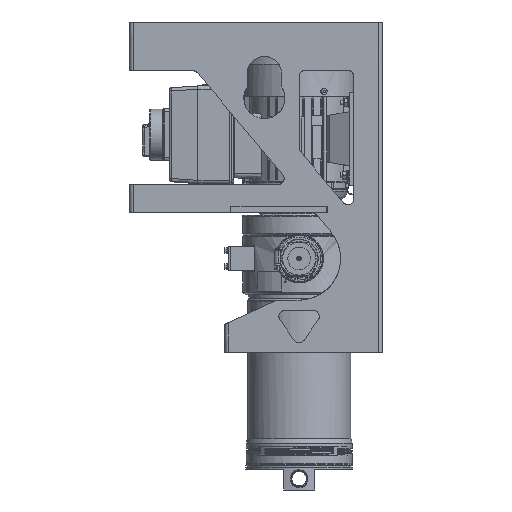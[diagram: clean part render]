
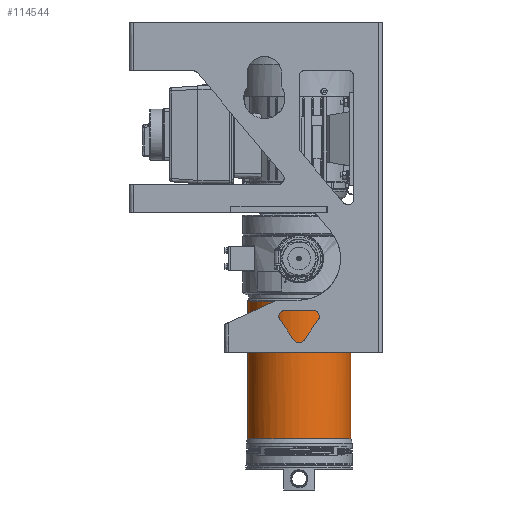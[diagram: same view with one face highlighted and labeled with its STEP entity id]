
A CAD part, front view. The second image highlights one B-rep face of the part: STEP entity #114544.
In plain terms, the highlighted free-form (B-spline) face has degree [2, 1] with [7, 2] control points.
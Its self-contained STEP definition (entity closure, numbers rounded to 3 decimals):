
#114417=CARTESIAN_POINT('V3668',(-3.73,
   -70.95,-62.386));
#114418=VERTEX_POINT('V3668',#114417);
#114434=CARTESIAN_POINT('E5684',(-3.73,
   -70.95,-62.386));
#114435=CARTESIAN_POINT('E5684',(-7.784,
   -70.95,-62.386));
#114436=CARTESIAN_POINT('E5684',(-15.899,
   -70.177,-62.386));
#114437=CARTESIAN_POINT('E5684',(-27.626,
   -66.737,-62.386));
#114438=CARTESIAN_POINT('E5684',(-38.495,
   -61.144,-62.386));
#114439=CARTESIAN_POINT('E5684',(-47.996,
   -53.687,-62.386));
#114440=CARTESIAN_POINT('E5684',(-55.85,
   -44.708,-62.386));
#114441=CARTESIAN_POINT('E5684',(-61.283,
   -35.545,-62.386));
#114442=CARTESIAN_POINT('E5684',(-64.791,
   -26.717,-62.386));
#114443=CARTESIAN_POINT('E5684',(-66.845,
   -18.603,-62.386));
#114444=CARTESIAN_POINT('E5684',(-67.824,
   -10.291,-62.386));
#114445=CARTESIAN_POINT('E5684',(-67.699,
   -0.766,-62.386));
#114446=CARTESIAN_POINT('E5684',(-65.88,
   9.787,-62.386));
#114447=CARTESIAN_POINT('E5684',(-61.752,
   20.912,-62.386));
#114448=CARTESIAN_POINT('E5684',(-55.651,
   31.09,-62.386));
#114449=CARTESIAN_POINT('E5684',(-47.697,
   40.074,-62.386));
#114450=CARTESIAN_POINT('E5684',(-38.099,
   47.5,-62.386));
#114451=CARTESIAN_POINT('E5684',(-27.148,
   53.03,-62.386));
#114452=CARTESIAN_POINT('E5684',(-15.347,
   56.383,-62.386));
#114453=CARTESIAN_POINT('E5684',(-3.006,
   57.447,-62.386));
#114454=CARTESIAN_POINT('E5684',(9.43,
   56.104,-62.386));
#114455=CARTESIAN_POINT('E5684',(21.478,
   52.325,-62.386));
#114456=CARTESIAN_POINT('E5684',(32.558,
   46.269,-62.386));
#114457=CARTESIAN_POINT('E5684',(42.472,
   37.976,-62.386));
#114458=CARTESIAN_POINT('E5684',(50.699,
   27.61,-62.386));
#114459=CARTESIAN_POINT('E5684',(56.491,
   15.935,-62.386));
#114460=CARTESIAN_POINT('E5684',(59.733,
   3.846,-62.386));
#114461=CARTESIAN_POINT('E5684',(60.633,
   -8.138,-62.386));
#114462=CARTESIAN_POINT('E5684',(59.291,
   -20.081,-62.386));
#114463=CARTESIAN_POINT('E5684',(56.002,
   -30.754,-62.386));
#114464=CARTESIAN_POINT('E5684',(51.373,
   -39.956,-62.386));
#114465=CARTESIAN_POINT('E5684',(45.932,
   -47.686,-62.386));
#114466=CARTESIAN_POINT('E5684',(39.415,
   -54.534,-62.386));
#114467=CARTESIAN_POINT('E5684',(31.964,
   -60.351,-62.386));
#114468=CARTESIAN_POINT('E5684',(23.74,
   -65.011,-62.386));
#114469=CARTESIAN_POINT('E5684',(14.921,
   -68.414,-62.386));
#114470=CARTESIAN_POINT('E5684',(5.698,
   -70.486,-62.386));
#114471=CARTESIAN_POINT('E5684',(-0.588,
   -70.95,-62.386));
#114472=CARTESIAN_POINT('E5684',(-3.73,
   -70.95,-62.386));
#114473=B_SPLINE_CURVE_WITH_KNOTS('E5684',3,(#114434,#114435,#114436,
   #114437,#114438,#114439,#114440,#114441,#114442,#114443,#114444,
   #114445,#114446,#114447,#114448,#114449,#114450,#114451,#114452,
   #114453,#114454,#114455,#114456,#114457,#114458,#114459,#114460,
   #114461,#114462,#114463,#114464,#114465,#114466,#114467,#114468,
   #114469,#114470,#114471,#114472),.UNSPECIFIED.,.T.,.U.,(4,1,1,1,
   1,1,1,1,1,1,1,1,1,1,1,1,1,1,1,1,1,1,1,1,1,1,1,1,1,1,1,1,1,1,1,1,4),
   (2.0,12.715,23.43,34.145,
   44.86,55.194,65.528,
   72.884,80.24,87.596,
   94.952,105.358,115.763,
   126.169,136.574,147.328,
   158.082,168.836,179.59,
   190.656,201.721,212.787,
   223.852,235.702,247.551,
   258.088,268.625,279.162,
   289.698,298.001,306.304,
   314.607,322.91,331.213,
   339.515,347.818,356.121),
   .UNSPECIFIED.);
#114474=EDGE_CURVE('E5684',#114418,#114418,#114473,.T.);
#114479=CARTESIAN_POINT('F2216',(-3.73,
   -70.95,-232.63));
#114480=CARTESIAN_POINT('F2216',(107.122,
   -70.95,-232.63));
#114481=CARTESIAN_POINT('F2216',(51.696,
   25.05,-232.63));
#114482=CARTESIAN_POINT('F2216',(-3.73,
   121.05,-232.63));
#114483=CARTESIAN_POINT('F2216',(-59.155,
   25.05,-232.63));
#114484=CARTESIAN_POINT('F2216',(-114.581,
   -70.95,-232.63));
#114485=CARTESIAN_POINT('F2216',(-3.73,
   -70.95,-232.63));
#114486=CARTESIAN_POINT('F2216',(-3.73,
   -70.95,-61.531));
#114487=CARTESIAN_POINT('F2216',(107.122,
   -70.95,-61.531));
#114488=CARTESIAN_POINT('F2216',(51.696,
   25.05,-61.531));
#114489=CARTESIAN_POINT('F2216',(-3.73,
   121.05,-61.531));
#114490=CARTESIAN_POINT('F2216',(-59.155,
   25.05,-61.531));
#114491=CARTESIAN_POINT('F2216',(-114.581,
   -70.95,-61.531));
#114492=CARTESIAN_POINT('F2216',(-3.73,
   -70.95,-61.531));
#114500=(BOUNDED_SURFACE()B_SPLINE_SURFACE(2,1,((#114479,#114486),
   (#114480,#114487),(#114481,#114488),(#114482,#114489),(
   #114483,#114490),(#114484,#114491),(#114485,#114492)),
   .CYLINDRICAL_SURF.,.T.,.F.,.U.)B_SPLINE_SURFACE_WITH_KNOTS((3,2,
   2,3),(2,2),(0.0,1.296,2.592,
   3.887),(0.0,1.0),.UNSPECIFIED.)
   GEOMETRIC_REPRESENTATION_ITEM()RATIONAL_B_SPLINE_SURFACE(((1.0,
   1.0),(0.5,0.5),(1.0,1.0),(
   0.5,0.5),(1.0,1.0),(
   0.5,0.5),(1.0,1.0)))
   REPRESENTATION_ITEM('F2216')SURFACE());
#114501=ORIENTED_EDGE('F2209',*,*,#114474,.T.);
#114502=CARTESIAN_POINT('V3677',(-3.73,
   -70.95,-232.53));
#114503=VERTEX_POINT('V3677',#114502);
#114504=CARTESIAN_POINT('E5700',(-3.73,
   -70.95,-62.386));
#114505=CARTESIAN_POINT('E5700',(-3.73,
   -70.95,-232.53));
#114506=B_SPLINE_CURVE_WITH_KNOTS('E5700',1,(#114504,#114505),
   .POLYLINE_FORM.,.F.,.U.,(2,2),(0.001,
   0.995),.UNSPECIFIED.);
#114507=EDGE_CURVE('E5700',#114418,#114503,#114506,.T.);
#114508=ORIENTED_EDGE('E5700',*,*,#114507,.T.);
#114509=CARTESIAN_POINT('V3676',(-3.73,
   57.05,-232.53));
#114510=VERTEX_POINT('V3676',#114509);
#114511=CARTESIAN_POINT('E5698',(-3.73,
   -70.95,-232.53));
#114512=CARTESIAN_POINT('E5698',(33.221,
   -70.95,-232.53));
#114513=CARTESIAN_POINT('E5698',(51.696,
   -38.95,-232.53));
#114514=CARTESIAN_POINT('E5698',(107.122,
   57.05,-232.53));
#114515=CARTESIAN_POINT('E5698',(-3.73,
   57.05,-232.53));
#114523=(BOUNDED_CURVE()B_SPLINE_CURVE(2,(#114511,#114512,#114513,
   #114514,#114515),.CIRCULAR_ARC.,.F.,.U.)
   B_SPLINE_CURVE_WITH_KNOTS((3,2,3),(11.588,
   15.45,23.175),.UNSPECIFIED.)CURVE()
   GEOMETRIC_REPRESENTATION_ITEM()RATIONAL_B_SPLINE_CURVE((
   0.75,0.75,1.0,0.5,1.0))
   REPRESENTATION_ITEM('E5698'));
#114524=EDGE_CURVE('E5698',#114503,#114510,#114523,.T.);
#114525=ORIENTED_EDGE('E5698',*,*,#114524,.T.);
#114526=CARTESIAN_POINT('E5699',(-3.73,
   57.05,-232.53));
#114527=CARTESIAN_POINT('E5699',(-114.581,
   57.05,-232.53));
#114528=CARTESIAN_POINT('E5699',(-59.155,
   -38.95,-232.53));
#114529=CARTESIAN_POINT('E5699',(-40.68,
   -70.95,-232.53));
#114530=CARTESIAN_POINT('E5699',(-3.73,
   -70.95,-232.53));
#114538=(BOUNDED_CURVE()B_SPLINE_CURVE(2,(#114526,#114527,#114528,
   #114529,#114530),.CIRCULAR_ARC.,.F.,.U.)
   B_SPLINE_CURVE_WITH_KNOTS((3,2,3),(0.0,7.725,
   11.588),.UNSPECIFIED.)CURVE()
   GEOMETRIC_REPRESENTATION_ITEM()RATIONAL_B_SPLINE_CURVE((1.0,
   0.5,1.0,0.75,0.75))
   REPRESENTATION_ITEM('E5699'));
#114539=EDGE_CURVE('E5699',#114510,#114503,#114538,.T.);
#114540=ORIENTED_EDGE('E5699',*,*,#114539,.T.);
#114541=ORIENTED_EDGE('E5700',*,*,#114507,.F.);
#114542=EDGE_LOOP('F2216',(#114501,#114508,#114525,#114540,#114541)
   );
#114543=FACE_OUTER_BOUND('F2216',#114542,.T.);
#114544=ADVANCED_FACE('F2216',(#114543),#114500,.T.);
